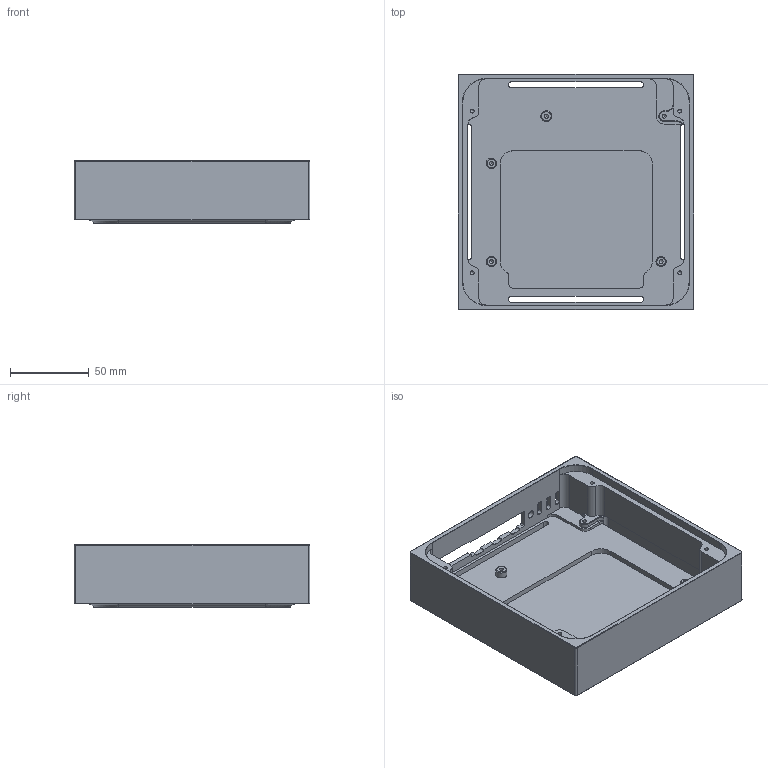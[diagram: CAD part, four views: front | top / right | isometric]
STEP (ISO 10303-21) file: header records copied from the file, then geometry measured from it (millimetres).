
FILE_DESCRIPTION(/* description */ ('Dev Kit Enclosure Bot aluminium black anodized'),/* implementation_level */ '2;1');
FILE_NAME(/* name */ '10G_GW_ENC_Enc_Bot_AL.step',/* time_stamp */ '2025-12-04T10:29:41+01:00',/* author */ (''),/* organization */ (''),/* preprocessor_version */ 'ST-DEVELOPER v20.1',/* originating_system */ 'Autodesk Translation Framework v14.21.0.0',/* authorisation */ '');
FILE_SCHEMA (('AUTOMOTIVE_DESIGN { 1 0 10303 214 3 1 1 }'));
Length unit declared in the file: millimetre
Products named in the file (1): 2025-10-07-15-29-29-632
Bounding box: 150 x 150 x 39.5 mm (x, y, z)
Volume: 202882.4 mm3; surface area: 87825.9 mm2
Topology: 1 solids, 1 shells, 247 faces, 682 edges, 439 vertices
Faces by surface type: cylinder 105, plane 103, cone 32, bspline 7
Full cylindrical faces by diameter (mm): 2.5 x13, 4.999 x1, 6.5 x3, 7 x1
Entity records: 9207 total; most frequent: CARTESIAN_POINT 2742, DIRECTION 1371, ORIENTED_EDGE 1338, EDGE_CURVE 669, AXIS2_PLACEMENT_3D 482, VERTEX_POINT 439, LINE 407, VECTOR 407
